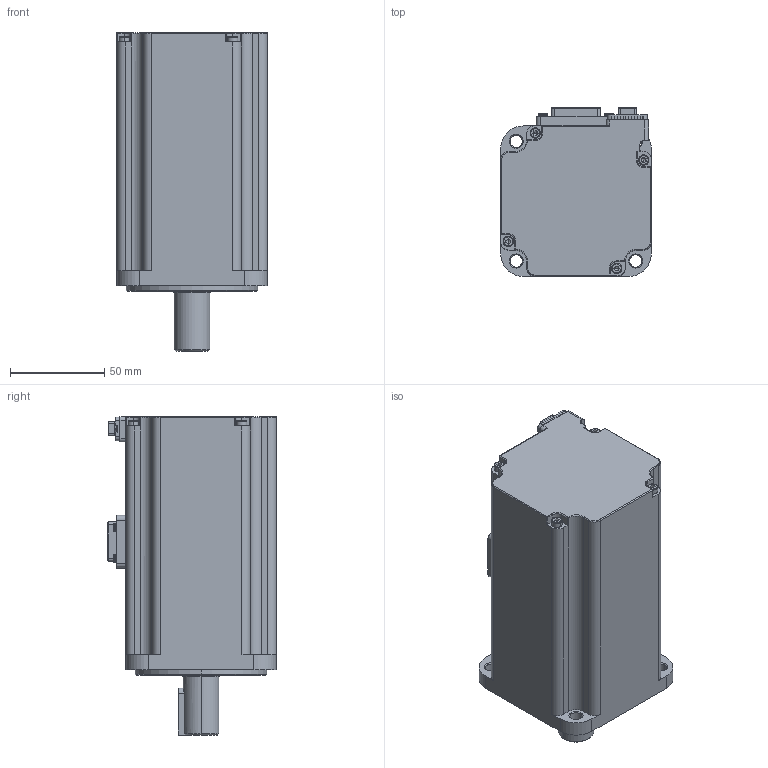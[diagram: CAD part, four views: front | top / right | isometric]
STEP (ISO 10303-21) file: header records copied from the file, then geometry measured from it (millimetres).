
FILE_DESCRIPTION (( 'STEP AP203' ), '1' );
FILE_NAME ('307090506SS£¨SMK80S-0075-30SBK-5DKA£©.STEP', '2024-03-29T12:28:53', ( 'kinavo-1' ), ( '' ), 'SwSTEP 2.0', 'SolidWorks 2023', '' );
FILE_SCHEMA (( 'CONFIG_CONTROL_DESIGN' ));
Length unit declared in the file: millimetre
Products named in the file (1): 307090506SS（SMK80S-0075-30SBK-5DKA）
Bounding box: 80 x 89.6 x 169.5 mm (x, y, z)
Volume: 784199.5 mm3; surface area: 68054.6 mm2
Topology: 2 solids, 40 shells, 1665 faces, 4197 edges, 2622 vertices
Faces by surface type: plane 744, cylinder 618, torus 124, cone 118, bspline 34, sphere 27
Entity records: 56576 total; most frequent: CARTESIAN_POINT 16489, DIRECTION 8548, ORIENTED_EDGE 8256, EDGE_CURVE 4128, AXIS2_PLACEMENT_3D 3128, VERTEX_POINT 2614, VECTOR 2292, LINE 2292
